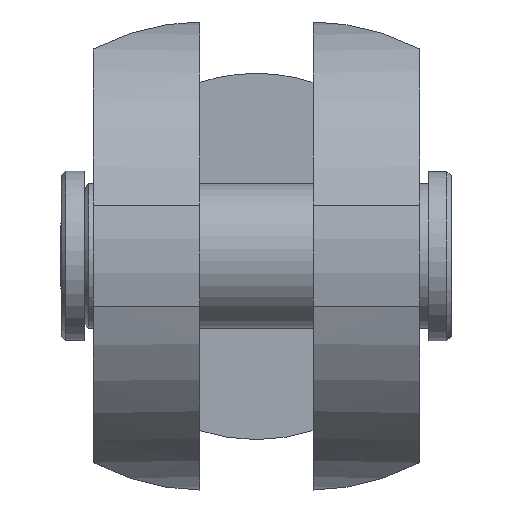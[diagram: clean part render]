
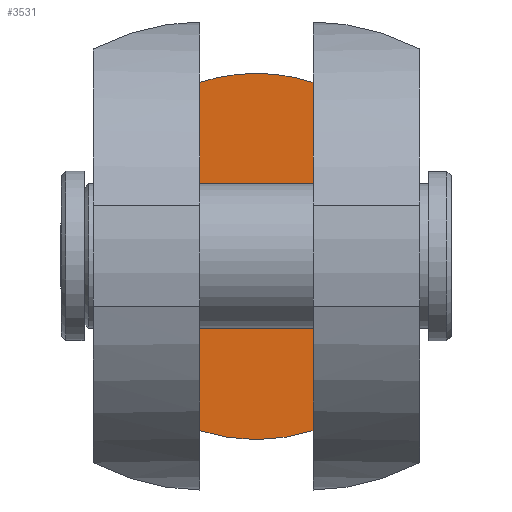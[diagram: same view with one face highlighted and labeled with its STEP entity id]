
A CAD part, top view. The second image highlights one B-rep face of the part: STEP entity #3531.
In plain terms, the highlighted planar face has unit normal (0, 0, 1).
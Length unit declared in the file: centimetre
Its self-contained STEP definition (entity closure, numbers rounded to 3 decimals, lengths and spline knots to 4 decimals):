
#351=LINE('',#5747,#699);
#352=LINE('',#5749,#700);
#699=VECTOR('',#4451,15.3577);
#700=VECTOR('',#4454,15.3577);
#914=PLANE('',#3733);
#1151=FACE_OUTER_BOUND('',#1369,.T.);
#1369=EDGE_LOOP('',(#3067,#3068,#3069,#3070));
#1437=CIRCLE('',#3587,8.0756);
#1438=CIRCLE('',#3588,8.0756);
#1490=VERTEX_POINT('',#4625);
#1491=VERTEX_POINT('',#4629);
#1496=VERTEX_POINT('',#4661);
#1497=VERTEX_POINT('',#4665);
#1806=EDGE_CURVE('',#1490,#1491,#1437,.T.);
#1812=EDGE_CURVE('',#1496,#1497,#1438,.T.);
#2207=EDGE_CURVE('',#1497,#1490,#351,.T.);
#2208=EDGE_CURVE('',#1496,#1491,#352,.T.);
#3067=ORIENTED_EDGE('',*,*,#1812,.F.);
#3068=ORIENTED_EDGE('',*,*,#2208,.T.);
#3069=ORIENTED_EDGE('',*,*,#1806,.F.);
#3070=ORIENTED_EDGE('',*,*,#2207,.F.);
#3531=ADVANCED_FACE('',(#1151),#914,.F.);
#3587=AXIS2_PLACEMENT_3D('',#4630,#3825,#3826);
#3588=AXIS2_PLACEMENT_3D('',#4666,#3827,#3828);
#3733=AXIS2_PLACEMENT_3D('',#5748,#4452,#4453);
#3825=DIRECTION('center_axis',(0.,0.,
-1.));
#3826=DIRECTION('ref_axis',(0.,1.,0.));
#3827=DIRECTION('center_axis',(0.,0.,
-1.));
#3828=DIRECTION('ref_axis',(0.,1.,0.));
#4451=DIRECTION('',(0.,-1.,0.));
#4452=DIRECTION('center_axis',(0.,0.,
-1.));
#4453=DIRECTION('ref_axis',(1.,0.,0.));
#4454=DIRECTION('',(0.,-1.,0.));
#4625=CARTESIAN_POINT('',(2.5,-7.6789,-12.5));
#4629=CARTESIAN_POINT('',(-2.5,-7.6789,-12.5));
#4630=CARTESIAN_POINT('Origin',(0.,0.,
-12.5));
#4661=CARTESIAN_POINT('',(-2.5,7.6789,-12.5));
#4665=CARTESIAN_POINT('',(2.5,7.6789,-12.5));
#4666=CARTESIAN_POINT('Origin',(0.,0.,
-12.5));
#5747=CARTESIAN_POINT('',(2.5,0.,-12.5));
#5748=CARTESIAN_POINT('Origin',(-2.5,0.,
-12.5));
#5749=CARTESIAN_POINT('',(-2.5,0.,-12.5));
